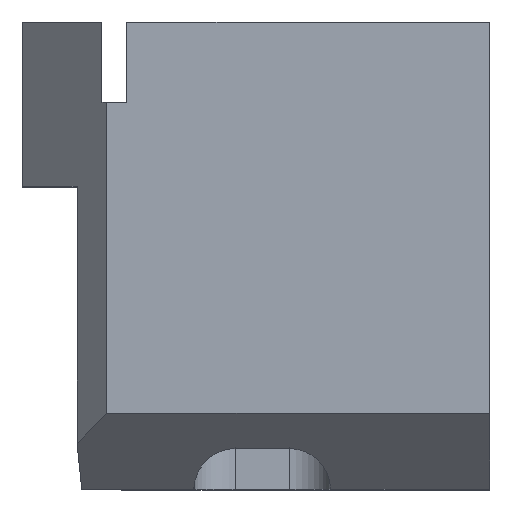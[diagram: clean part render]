
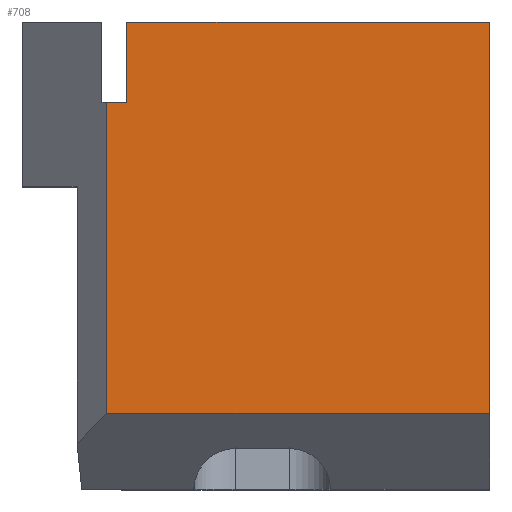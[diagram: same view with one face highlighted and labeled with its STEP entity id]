
A CAD part, top view. The second image highlights one B-rep face of the part: STEP entity #708.
In plain terms, the highlighted planar face has unit normal (0, 0, 1).
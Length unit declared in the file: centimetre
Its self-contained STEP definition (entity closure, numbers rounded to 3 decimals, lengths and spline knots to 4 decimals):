
#14 = CARTESIAN_POINT ( 'NONE',  ( 1000., 1000., 1000. ) ) ;
#24 = VECTOR ( 'NONE', #180, 100. ) ;
#26 = DIRECTION ( 'NONE',  ( 0., 0., 1. ) ) ;
#34 = DIRECTION ( 'NONE',  ( -1., 0., 0. ) ) ;
#50 = VERTEX_POINT ( 'NONE', #819 ) ;
#69 = ORIENTED_EDGE ( 'NONE', *, *, #668, .T. ) ;
#76 = LINE ( 'NONE', #14, #119 ) ;
#109 = EDGE_CURVE ( 'NONE', #611, #1002, #737, .T. ) ;
#119 = VECTOR ( 'NONE', #861, 100. ) ;
#159 = CARTESIAN_POINT ( 'NONE',  ( 1000., 162.0363, 1000. ) ) ;
#180 = DIRECTION ( 'NONE',  ( 1., 0., 0. ) ) ;
#200 = CARTESIAN_POINT ( 'NONE',  ( 223.4612, 828.7217, 1000. ) ) ;
#219 = ORIENTED_EDGE ( 'NONE', *, *, #952, .T. ) ;
#225 = ORIENTED_EDGE ( 'NONE', *, *, #109, .T. ) ;
#262 = FACE_OUTER_BOUND ( 'NONE', #424, .T. ) ;
#285 = LINE ( 'NONE', #533, #972 ) ;
#327 = EDGE_CURVE ( 'NONE', #1002, #50, #942, .T. ) ;
#404 = VECTOR ( 'NONE', #805, 100. ) ;
#424 = EDGE_LOOP ( 'NONE', ( #225, #582, #697, #219, #687, #69 ) ) ;
#443 = EDGE_CURVE ( 'NONE', #50, #482, #486, .T. ) ;
#475 = CARTESIAN_POINT ( 'NONE',  ( 180.417, 162.0363, 1000. ) ) ;
#478 = CARTESIAN_POINT ( 'NONE',  ( 1000., 162.0363, 1000. ) ) ;
#482 = VERTEX_POINT ( 'NONE', #159 ) ;
#486 = LINE ( 'NONE', #478, #24 ) ;
#495 = PLANE ( 'NONE',  #610 ) ;
#512 = CARTESIAN_POINT ( 'NONE',  ( 169.9319, 828.7217, 1000. ) ) ;
#533 = CARTESIAN_POINT ( 'NONE',  ( 0., 1000., 1000. ) ) ;
#582 = ORIENTED_EDGE ( 'NONE', *, *, #327, .T. ) ;
#610 = AXIS2_PLACEMENT_3D ( 'NONE', #812, #26, #919 ) ;
#611 = VERTEX_POINT ( 'NONE', #662 ) ;
#623 = CARTESIAN_POINT ( 'NONE',  ( 180.417, 828.7217, 1000. ) ) ;
#662 = CARTESIAN_POINT ( 'NONE',  ( 223.4612, 828.7217, 1000. ) ) ;
#668 = EDGE_CURVE ( 'NONE', #725, #611, #974, .T. ) ;
#687 = ORIENTED_EDGE ( 'NONE', *, *, #716, .T. ) ;
#697 = ORIENTED_EDGE ( 'NONE', *, *, #443, .T. ) ;
#708 = ADVANCED_FACE ( 'NONE', ( #262 ), #495, .T. ) ;
#716 = EDGE_CURVE ( 'NONE', #772, #725, #285, .T. ) ;
#725 = VERTEX_POINT ( 'NONE', #1000 ) ;
#731 = VECTOR ( 'NONE', #938, 100. ) ;
#737 = LINE ( 'NONE', #512, #937 ) ;
#752 = DIRECTION ( 'NONE',  ( -1., 0., 0. ) ) ;
#772 = VERTEX_POINT ( 'NONE', #991 ) ;
#805 = DIRECTION ( 'NONE',  ( 0., -1., 0. ) ) ;
#812 = CARTESIAN_POINT ( 'NONE',  ( 0., 0., 1000. ) ) ;
#819 = CARTESIAN_POINT ( 'NONE',  ( 180.417, 162.0363, 1000. ) ) ;
#861 = DIRECTION ( 'NONE',  ( 0., 1., 0. ) ) ;
#919 = DIRECTION ( 'NONE',  ( 1., 0., 0. ) ) ;
#937 = VECTOR ( 'NONE', #34, 100. ) ;
#938 = DIRECTION ( 'NONE',  ( 0., -1., 0. ) ) ;
#942 = LINE ( 'NONE', #475, #731 ) ;
#952 = EDGE_CURVE ( 'NONE', #482, #772, #76, .T. ) ;
#972 = VECTOR ( 'NONE', #752, 100. ) ;
#974 = LINE ( 'NONE', #200, #404 ) ;
#991 = CARTESIAN_POINT ( 'NONE',  ( 1000., 1000., 1000. ) ) ;
#1000 = CARTESIAN_POINT ( 'NONE',  ( 223.4612, 1000., 1000. ) ) ;
#1002 = VERTEX_POINT ( 'NONE', #623 ) ;
